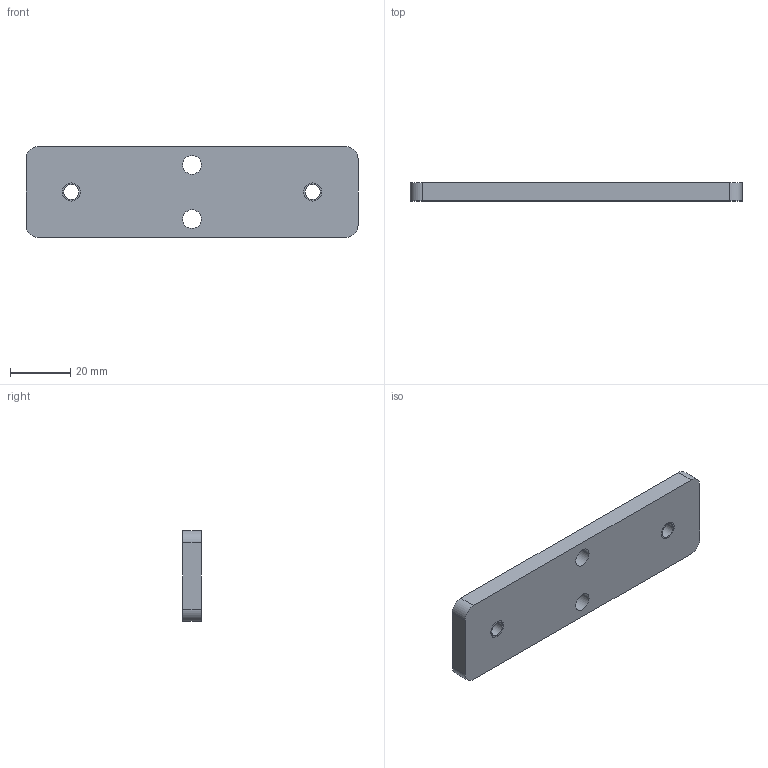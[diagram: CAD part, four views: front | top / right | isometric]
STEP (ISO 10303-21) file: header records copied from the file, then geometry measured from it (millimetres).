
FILE_DESCRIPTION((''),'2;1');
FILE_NAME('FIPA_3','2002-12-27T',('Lipro doo'),('Lipro d.o.o.'),'PRO/ENGINEER BY PARAMETRIC TECHNOLOGY CORPORATION, 2001150','PRO/ENGINEER BY PARAMETRIC TECHNOLOGY CORPORATION, 2001150','');
FILE_SCHEMA(('CONFIG_CONTROL_DESIGN'));
Length unit declared in the file: millimetre
Products named in the file (1): FIPA_3
Bounding box: 110 x 6 x 30 mm (x, y, z)
Volume: 19113 mm3; surface area: 8645.3 mm2
Topology: 1 solids, 3 shells, 26 faces, 68 edges, 44 vertices
Faces by surface type: cylinder 16, plane 6, cone 4
Entity records: 873 total; most frequent: DIRECTION 158, CARTESIAN_POINT 139, ORIENTED_EDGE 128, EDGE_CURVE 68, AXIS2_PLACEMENT_3D 63, VERTEX_POINT 44, CIRCLE 36, EDGE_LOOP 34
